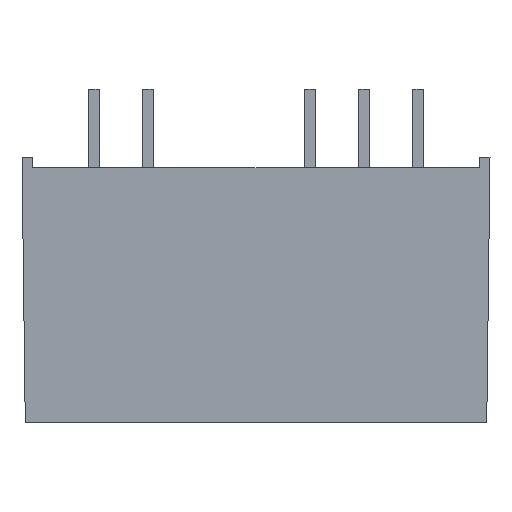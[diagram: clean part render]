
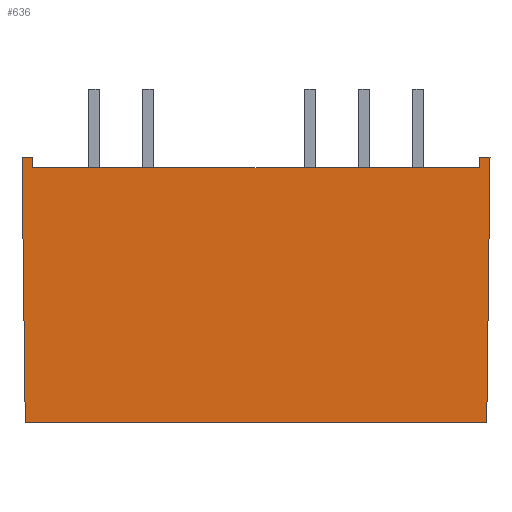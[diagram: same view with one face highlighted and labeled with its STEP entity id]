
A CAD part, front view. The second image highlights one B-rep face of the part: STEP entity #636.
In plain terms, the highlighted planar face has unit normal (0, -1, -0.012).
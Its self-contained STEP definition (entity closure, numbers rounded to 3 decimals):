
#50=FACE_OUTER_BOUND('',#90,.T.);
#90=EDGE_LOOP('',(#543,#544,#545,#546,#547,#548,#549,#550));
#156=LINE('',#965,#240);
#159=LINE('',#971,#243);
#164=LINE('',#980,#248);
#167=LINE('',#986,#251);
#168=LINE('',#989,#252);
#171=LINE('',#995,#255);
#172=LINE('',#997,#256);
#173=LINE('',#998,#257);
#240=VECTOR('',#793,20.986);
#243=VECTOR('',#798,0.5);
#248=VECTOR('',#805,0.5);
#251=VECTOR('',#810,0.5);
#252=VECTOR('',#813,0.5);
#255=VECTOR('',#818,12.502);
#256=VECTOR('',#819,21.695);
#257=VECTOR('',#820,12.502);
#304=VERTEX_POINT('',#962);
#305=VERTEX_POINT('',#964);
#307=VERTEX_POINT('',#970);
#310=VERTEX_POINT('',#978);
#312=VERTEX_POINT('',#984);
#313=VERTEX_POINT('',#988);
#315=VERTEX_POINT('',#994);
#316=VERTEX_POINT('',#996);
#380=EDGE_CURVE('',#305,#304,#156,.T.);
#383=EDGE_CURVE('',#307,#305,#159,.T.);
#388=EDGE_CURVE('',#304,#310,#164,.T.);
#391=EDGE_CURVE('',#310,#312,#167,.T.);
#392=EDGE_CURVE('',#313,#307,#168,.T.);
#395=EDGE_CURVE('',#315,#312,#171,.F.);
#396=EDGE_CURVE('',#315,#316,#172,.F.);
#397=EDGE_CURVE('',#316,#313,#173,.T.);
#543=ORIENTED_EDGE('',*,*,#383,.T.);
#544=ORIENTED_EDGE('',*,*,#380,.T.);
#545=ORIENTED_EDGE('',*,*,#388,.T.);
#546=ORIENTED_EDGE('',*,*,#391,.T.);
#547=ORIENTED_EDGE('',*,*,#395,.F.);
#548=ORIENTED_EDGE('',*,*,#396,.T.);
#549=ORIENTED_EDGE('',*,*,#397,.T.);
#550=ORIENTED_EDGE('',*,*,#392,.T.);
#601=PLANE('',#673);
#636=ADVANCED_FACE('',(#50),#601,.T.);
#673=AXIS2_PLACEMENT_3D('',#993,#816,#817);
#793=DIRECTION('',(-1.,0.,0.));
#798=DIRECTION('',(-0.014,0.012,-1.));
#805=DIRECTION('',(-0.014,-0.012,1.));
#810=DIRECTION('',(-1.,0.,0.));
#813=DIRECTION('',(-1.,0.,0.));
#816=DIRECTION('center_axis',(0.,-1.,-0.012));
#817=DIRECTION('ref_axis',(0.,0.012,-1.));
#818=DIRECTION('',(0.012,0.012,-1.));
#819=DIRECTION('',(-1.,0.,0.));
#820=DIRECTION('',(0.012,-0.012,1.));
#962=CARTESIAN_POINT('',(-10.493,-3.944,12.));
#964=CARTESIAN_POINT('',(10.493,-3.944,12.));
#965=CARTESIAN_POINT('',(5.5,-3.944,12.));
#970=CARTESIAN_POINT('',(10.5,-3.95,12.5));
#971=CARTESIAN_POINT('',(10.413,-3.874,6.255));
#978=CARTESIAN_POINT('',(-10.5,-3.95,12.5));
#980=CARTESIAN_POINT('',(-10.41,-3.871,6.053));
#984=CARTESIAN_POINT('',(-11.,-3.95,12.5));
#986=CARTESIAN_POINT('',(-11.,-3.95,12.5));
#988=CARTESIAN_POINT('',(11.,-3.95,12.5));
#989=CARTESIAN_POINT('',(-11.,-3.95,12.5));
#993=CARTESIAN_POINT('Origin',(11.,-3.797,0.001));
#994=CARTESIAN_POINT('',(-10.847,-3.797,0.));
#995=CARTESIAN_POINT('',(-10.846,-3.796,-0.132));
#996=CARTESIAN_POINT('',(10.847,-3.797,0.));
#997=CARTESIAN_POINT('',(5.5,-3.797,0.));
#998=CARTESIAN_POINT('',(10.847,-3.797,-0.045));
